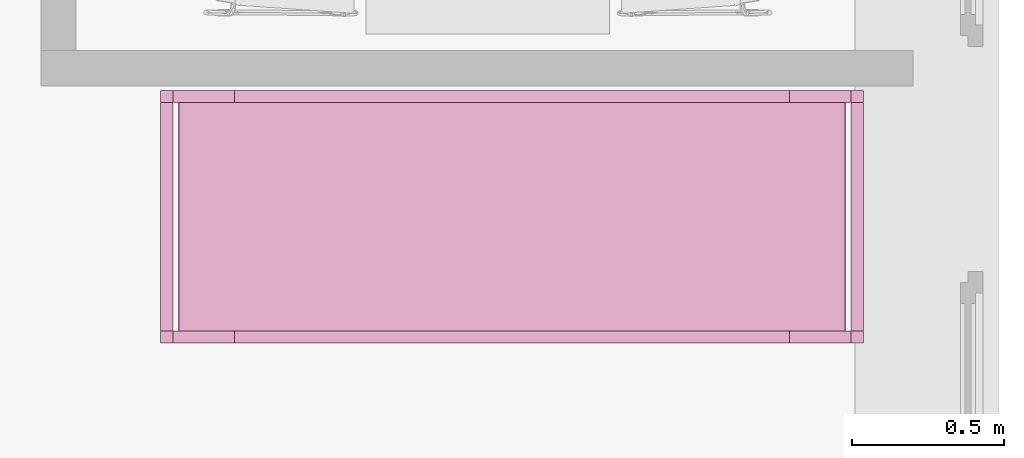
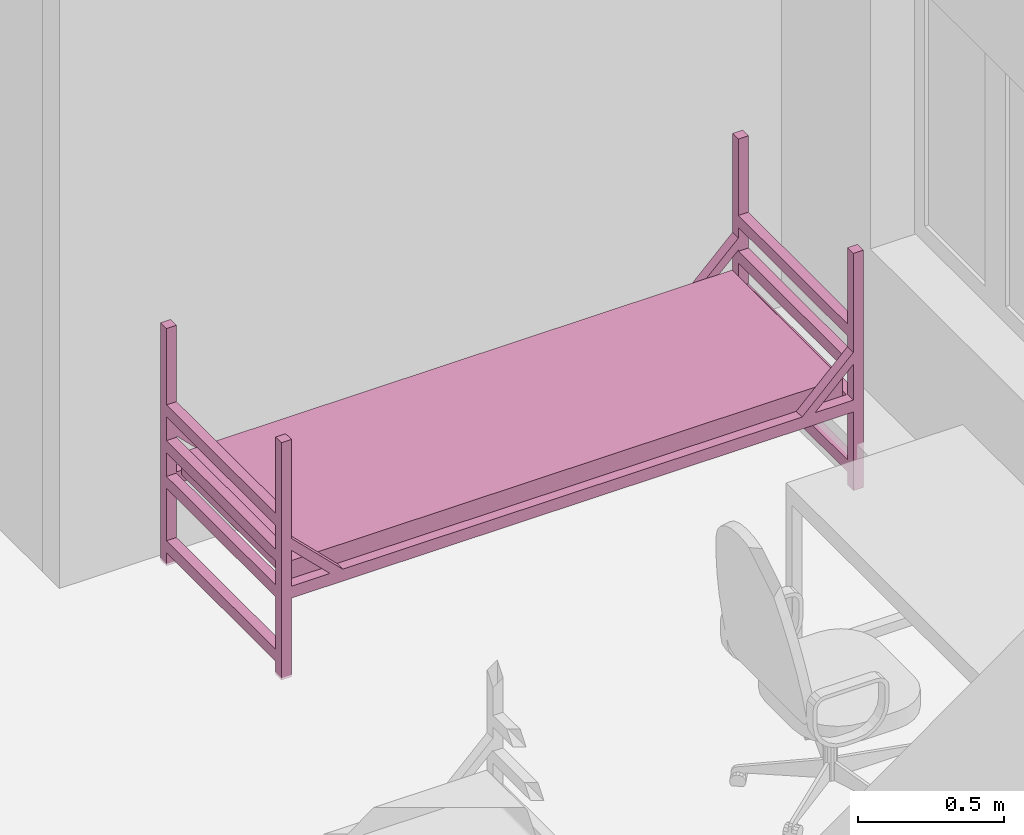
# One storey, part 42 of 46: 1 furnishing.
"""IFC2X3 building model written with IfcOpenShell, lengths in millimetres."""

from ifc_helpers import new_model, entity, si_unit, converted_unit, derived_unit, direction, frame, frame_2d, origin, place, context, subcontext, project, spatial, polyline, circle_curve, parameter, trimmed, segment, composite_curve, rectangle, outline, extrude, source, transform, mapped, material, type_object, type_shapes, element, save


model = new_model("IFC2X3")

# Units and contexts
model_context = context("Model", 3, precision=0.01, world=origin(), true_north=direction((6.12303176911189e-17, 1.0)))
body_context = subcontext(model_context, "Body", "Model", "MODEL_VIEW")
ifc_project = project(units=[si_unit("LENGTHUNIT", "METRE", prefix="MILLI"), si_unit("AREAUNIT", "SQUARE_METRE"), si_unit("VOLUMEUNIT", "CUBIC_METRE"), converted_unit("PLANEANGLEUNIT", "DEGREE", entity("IfcRatioMeasure", 0.0174532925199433), si_unit("PLANEANGLEUNIT", "RADIAN"), dimensions=[0, 0, 0, 0, 0, 0, 0]), si_unit("MASSUNIT", "GRAM", prefix="KILO"), derived_unit("MASSDENSITYUNIT", [(si_unit("MASSUNIT", "GRAM", prefix="KILO"), 1), (si_unit("LENGTHUNIT", "METRE"), -3)]), si_unit("TIMEUNIT", "SECOND"), si_unit("FREQUENCYUNIT", "HERTZ"), si_unit("THERMODYNAMICTEMPERATUREUNIT", "DEGREE_CELSIUS"), derived_unit("THERMALTRANSMITTANCEUNIT", [(si_unit("MASSUNIT", "GRAM", prefix="KILO"), 1), (si_unit("THERMODYNAMICTEMPERATUREUNIT", "KELVIN"), -1), (si_unit("TIMEUNIT", "SECOND"), -3)]), derived_unit("VOLUMETRICFLOWRATEUNIT", [(si_unit("LENGTHUNIT", "METRE"), 3), (si_unit("TIMEUNIT", "SECOND"), -1)]), si_unit("ELECTRICCURRENTUNIT", "AMPERE"), si_unit("ELECTRICVOLTAGEUNIT", "VOLT"), si_unit("POWERUNIT", "WATT"), si_unit("FORCEUNIT", "NEWTON", prefix="KILO"), si_unit("ILLUMINANCEUNIT", "LUX"), si_unit("LUMINOUSFLUXUNIT", "LUMEN"), si_unit("LUMINOUSINTENSITYUNIT", "CANDELA"), derived_unit("USERDEFINED", [(si_unit("MASSUNIT", "GRAM", prefix="KILO"), -1), (si_unit("LENGTHUNIT", "METRE"), -2), (si_unit("TIMEUNIT", "SECOND"), 3), (si_unit("LUMINOUSFLUXUNIT", "LUMEN"), 1)]), derived_unit("LINEARVELOCITYUNIT", [(si_unit("LENGTHUNIT", "METRE"), 1), (si_unit("TIMEUNIT", "SECOND"), -1)]), si_unit("PRESSUREUNIT", "PASCAL"), derived_unit("USERDEFINED", [(si_unit("LENGTHUNIT", "METRE"), -2), (si_unit("MASSUNIT", "GRAM", prefix="KILO"), 1), (si_unit("TIMEUNIT", "SECOND"), -2)]), derived_unit("LINEARFORCEUNIT", [(si_unit("MASSUNIT", "GRAM", prefix="KILO"), 1), (si_unit("LENGTHUNIT", "METRE"), 1), (si_unit("TIMEUNIT", "SECOND"), -2), (si_unit("LENGTHUNIT", "METRE"), -1)]), derived_unit("PLANARFORCEUNIT", [(si_unit("MASSUNIT", "GRAM", prefix="KILO"), 1), (si_unit("LENGTHUNIT", "METRE"), 1), (si_unit("TIMEUNIT", "SECOND"), -2), (si_unit("LENGTHUNIT", "METRE"), -2)])], contexts=[model_context])

# Site, building, storey, space
site_placement = place(None, origin())
site = spatial("IfcSite", under=ifc_project, at=site_placement, Name="Default", CompositionType="ELEMENT")
building_placement = place(site_placement, origin())
building = spatial("IfcBuilding", under=site, at=building_placement, Name="SMA ARH", CompositionType="ELEMENT")
storey_placement = place(building_placement, frame((0.0, 0.0, 9910.0)))
storey = spatial("IfcBuildingStorey", under=building, at=storey_placement, Name="4 Korrus", CompositionType="ELEMENT", Elevation=9909.9999999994)
space_placement = place(storey_placement, origin())
space = spatial("IfcSpace", under=storey, at=space_placement, Name="4-1", CompositionType="ELEMENT", InteriorOrExteriorSpace="INTERNAL")

# Furnishing
ifc_material = material(Name="Madrats")
furniture_type = type_object("IfcFurnitureType", Name="Kasarmu voodi ühekordne 2308x830:Kasarmu voodi ühekordne 2308x830", material=ifc_material)
shared_shape = source(origin(), body_context, "Body", "SweptSolid", [
    extrude(rectangle(XDim=39.9999999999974, YDim=750.000000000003, at=frame_2d((-1.35003119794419e-13, -2.8421709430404e-14), x_axis=(1.0, 0.0))), frame((1.68638457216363, -1226.7969571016, 55.0), z_axis=(0.0, 0.0, 1.0), x_axis=(0.0, -1.0, 0.0)), (0.0, 0.0, 1.0), 49.9999999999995),
    extrude(rectangle(XDim=39.9999999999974, YDim=750.000000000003, at=frame_2d((-1.35003119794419e-13, -2.8421709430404e-14), x_axis=(1.0, 0.0))), frame((1.68638457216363, -1226.7969571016, 325.0), z_axis=(0.0, 0.0, 1.0), x_axis=(0.0, -1.0, 0.0)), (0.0, 0.0, 1.0), 49.9999999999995),
    extrude(rectangle(XDim=39.9999999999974, YDim=750.000000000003, at=frame_2d((-1.35003119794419e-13, -2.8421709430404e-14), x_axis=(1.0, 0.0))), frame((1.68638457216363, -1226.7969571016, 475.0), z_axis=(0.0, 0.0, 1.0), x_axis=(0.0, -1.0, 0.0)), (0.0, 0.0, 1.0), 49.9999999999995),
    extrude(rectangle(XDim=39.9999999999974, YDim=750.000000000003, at=frame_2d((-1.35003119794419e-13, -2.8421709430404e-14), x_axis=(1.0, 0.0))), frame((1.68638457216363, -1226.7969571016, 625.0), z_axis=(0.0, 0.0, 1.0), x_axis=(0.0, -1.0, 0.0)), (0.0, 0.0, 1.0), 50.0000000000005),
    extrude(rectangle(XDim=39.9999999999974, YDim=750.000000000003, at=frame_2d((1.35003119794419e-13, -2.8421709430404e-14), x_axis=(1.0, 0.0))), frame((1.68638457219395, 1041.2030428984, 55.0), z_axis=(0.0, 0.0, 1.0), x_axis=(0.0, -1.0, 0.0)), (0.0, 0.0, 1.0), 50.0000000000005),
    extrude(rectangle(XDim=39.9999999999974, YDim=750.000000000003, at=frame_2d((1.35003119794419e-13, -2.8421709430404e-14), x_axis=(1.0, 0.0))), frame((1.68638457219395, 1041.2030428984, 325.0), z_axis=(0.0, 0.0, 1.0), x_axis=(0.0, -1.0, 0.0)), (0.0, 0.0, 1.0), 50.0000000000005),
    extrude(rectangle(XDim=39.9999999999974, YDim=750.000000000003, at=frame_2d((1.35003119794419e-13, -2.8421709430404e-14), x_axis=(1.0, 0.0))), frame((1.68638457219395, 1041.2030428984, 475.0), z_axis=(0.0, 0.0, 1.0), x_axis=(0.0, -1.0, 0.0)), (0.0, 0.0, 1.0), 50.0000000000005),
    extrude(rectangle(XDim=39.9999999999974, YDim=750.000000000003, at=frame_2d((1.35003119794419e-13, -2.8421709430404e-14), x_axis=(1.0, 0.0))), frame((1.68638457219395, 1041.2030428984, 625.0), z_axis=(0.0, 0.0, 1.0), x_axis=(0.0, -1.0, 0.0)), (0.0, 0.0, 1.0), 49.9999999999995),
    extrude(outline(composite_curve([segment(trimmed(circle_curve(frame_2d((1085.0, -40.0), x_axis=(1.0, 0.0)), 10.0), [parameter(270.0)], [parameter(0.0)], True, "PARAMETER"), True, "CONTINUOUS"), segment(polyline([(1095.0, -40.0), (1095.0, 40.0)]), True, "CONTINUOUS"), segment(trimmed(circle_curve(frame_2d((1085.0, 40.0), x_axis=(1.0, 0.0)), 10.0), [parameter(0.0)], [parameter(90.0000000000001)], True, "PARAMETER"), True, "CONTINUOUS"), segment(polyline([(1085.0, 50.0), (-1085.0, 50.0)]), True, "CONTINUOUS"), segment(trimmed(circle_curve(frame_2d((-1085.0, 40.0), x_axis=(1.0, 0.0)), 10.0), [parameter(90.0000000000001)], [parameter(180.0)], True, "PARAMETER"), True, "CONTINUOUS"), segment(polyline([(-1095.0, 40.0), (-1095.0, -40.0)]), True, "CONTINUOUS"), segment(trimmed(circle_curve(frame_2d((-1085.0, -40.0), x_axis=(1.0, 0.0)), 10.0), [parameter(180.0)], [parameter(270.0)], True, "PARAMETER"), True, "CONTINUOUS"), segment(polyline([(-1085.0, -50.0), (1085.0, -50.0)]), True, "CONTINUOUS")], self_intersect=False)), frame((-373.313615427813, -92.7969571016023, 405.0), z_axis=(1.0, 0.0, 0.0), x_axis=(0.0, -1.0, 0.0)), (0.0, 0.0, 1.0), 750.000000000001),
    extrude(outline(polyline([(-1114.0, -100.0), (1114.0, -100.0), (1114.0, -50.0), (961.59199141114, -50.0), (1114.0, 100.0), (1114.0, 150.0), (910.789321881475, -50.0), (-910.789321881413, -50.0), (-1114.0, 150.0), (-1114.0, 100.0), (-961.591991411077, -50.0), (-1114.0, -50.0), (-1114.0, -100.0)])), frame((-413.313615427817, -92.7969571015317, 430.0), z_axis=(1.0, 0.0, 0.0), x_axis=(0.0, 1.0, 0.0)), (0.0, 0.0, 1.0), 39.9999999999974),
    extrude(outline(polyline([(-1114.0, -100.0), (1114.0, -100.0), (1114.0, -50.0), (961.591991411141, -50.0), (1114.0, 100.0), (1114.0, 150.0), (910.789321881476, -50.0), (-910.789321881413, -50.0), (-1114.0, 150.0), (-1114.0, 100.0), (-961.591991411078, -50.0), (-1114.0, -50.0), (-1114.0, -100.0)])), frame((376.686384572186, -92.796957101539, 430.0), z_axis=(1.0, 0.0, 0.0), x_axis=(0.0, 1.0, 0.0)), (0.0, 0.0, 1.0), 39.9999999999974),
    extrude(rectangle(XDim=39.9999999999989, YDim=39.9999999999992, at=frame_2d((-6.75015598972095e-14, 0.0), x_axis=(1.0, 0.0))), frame((396.686384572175, -1226.79695710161, 0.0), z_axis=(0.0, 0.0, 1.0), x_axis=(0.0, 1.0, 0.0)), (0.0, 0.0, 1.0), 995.0),
    extrude(rectangle(XDim=39.9999999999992, YDim=39.9999999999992, at=frame_2d((-1.35003119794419e-13, 0.0), x_axis=(1.0, 0.0))), frame((396.686384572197, 1041.20304289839, 0.0), z_axis=(0.0, 0.0, 1.0), x_axis=(0.0, 1.0, 0.0)), (0.0, 0.0, 1.0), 995.0),
    extrude(rectangle(XDim=40.0000000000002, YDim=39.9999999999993, at=frame_2d((-1.35003119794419e-13, 0.0), x_axis=(1.0, 0.0))), frame((-393.313615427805, 1041.2030428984, 0.0), z_axis=(0.0, 0.0, 1.0), x_axis=(0.0, 1.0, 0.0)), (0.0, 0.0, 1.0), 995.0),
    extrude(rectangle(XDim=39.9999999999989, YDim=39.9999999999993, at=frame_2d((-6.75015598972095e-14, 0.0), x_axis=(1.0, 0.0))), frame((-393.313615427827, -1226.7969571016, 0.0), z_axis=(0.0, 0.0, 1.0), x_axis=(0.0, 1.0, 0.0)), (0.0, 0.0, 1.0), 995.0),
])
type_shapes(furniture_type, [shared_shape])
furnishing_placement = place(space_placement, frame((37180.0, 2608.31361542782, 0.0), z_axis=(0.0, 0.0, 1.0), x_axis=(0.0, 1.0, 0.0)))
element("IfcFurnishingElement", 1, at=furnishing_placement, inside=space, type_object=furniture_type, material=ifc_material, Name="Kasarmu voodi ühekordne 2308x830:Kasarmu voodi ühekordne 2308x830", ObjectType="Kasarmu voodi ühekordne 2308x830:Kasarmu voodi ühekordne 2308x830", context=body_context, shape_type="MappedRepresentation", body=[
    mapped(shared_shape, transform((0.0, 0.0, 0.0), scale=1.0)),
])

save(model, "model.ifc")
